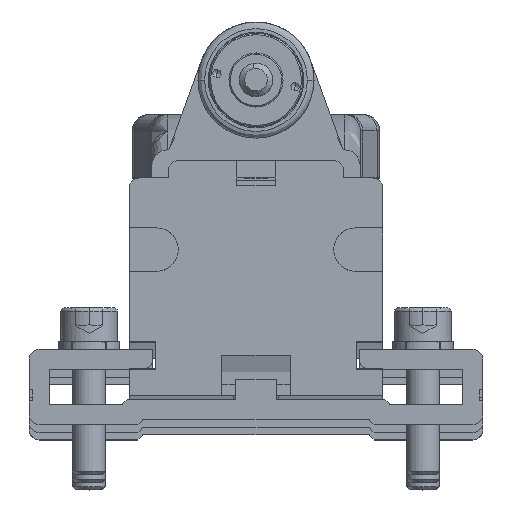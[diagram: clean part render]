
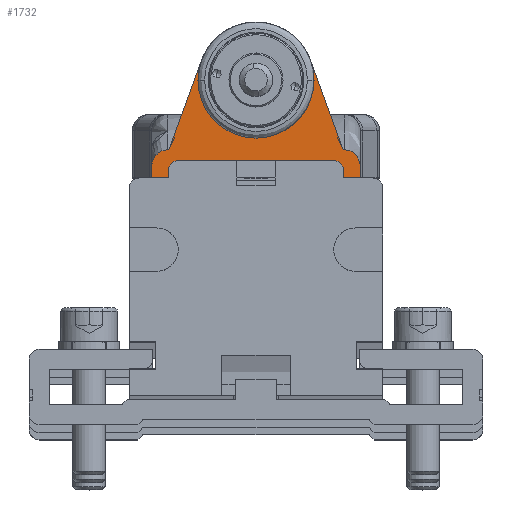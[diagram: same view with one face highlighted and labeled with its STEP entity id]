
A CAD part, top view. The second image highlights one B-rep face of the part: STEP entity #1732.
In plain terms, the highlighted planar face has unit normal (0, 0, 1).
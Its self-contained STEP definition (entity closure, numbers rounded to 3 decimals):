
#1732=ADVANCED_FACE('',(#3778),#3779,.T.);
#3778=FACE_OUTER_BOUND('',#6113,.T.);
#3779=PLANE('',#6114);
#6113=EDGE_LOOP('',(#13261,#13262,#13263,#13264,#13265,#13266,#13267,#13268,#13269,#13270,#13271,#13272,#13273,#13274,#13275,#13276,#13277,#13278,#13279,#13280,#13281,#13282));
#6114=AXIS2_PLACEMENT_3D('',#13283,#13284,#13285);
#13261=ORIENTED_EDGE('',*,*,#17844,.T.);
#13262=ORIENTED_EDGE('',*,*,#17845,.T.);
#13263=ORIENTED_EDGE('',*,*,#17846,.T.);
#13264=ORIENTED_EDGE('',*,*,#17847,.T.);
#13265=ORIENTED_EDGE('',*,*,#17848,.T.);
#13266=ORIENTED_EDGE('',*,*,#17849,.T.);
#13267=ORIENTED_EDGE('',*,*,#17850,.T.);
#13268=ORIENTED_EDGE('',*,*,#17851,.F.);
#13269=ORIENTED_EDGE('',*,*,#17852,.T.);
#13270=ORIENTED_EDGE('',*,*,#17853,.T.);
#13271=ORIENTED_EDGE('',*,*,#17854,.F.);
#13272=ORIENTED_EDGE('',*,*,#17855,.F.);
#13273=ORIENTED_EDGE('',*,*,#16094,.F.);
#13274=ORIENTED_EDGE('',*,*,#17856,.F.);
#13275=ORIENTED_EDGE('',*,*,#16107,.F.);
#13276=ORIENTED_EDGE('',*,*,#17857,.F.);
#13277=ORIENTED_EDGE('',*,*,#17858,.F.);
#13278=ORIENTED_EDGE('',*,*,#17859,.T.);
#13279=ORIENTED_EDGE('',*,*,#17860,.T.);
#13280=ORIENTED_EDGE('',*,*,#17861,.F.);
#13281=ORIENTED_EDGE('',*,*,#17862,.T.);
#13282=ORIENTED_EDGE('',*,*,#17863,.T.);
#13283=CARTESIAN_POINT('',(8.5,32.7,217.0));
#13284=DIRECTION('',(0.0,0.0,1.0));
#13285=DIRECTION('',(1.0,-0.0,0.0));
#16094=EDGE_CURVE('',#19135,#19138,#19139,.T.);
#16107=EDGE_CURVE('',#19162,#19164,#19165,.T.);
#17844=EDGE_CURVE('',#21761,#21762,#21763,.T.);
#17845=EDGE_CURVE('',#21762,#21764,#21765,.T.);
#17846=EDGE_CURVE('',#21764,#21766,#21767,.T.);
#17847=EDGE_CURVE('',#21766,#21768,#21769,.T.);
#17848=EDGE_CURVE('',#21768,#21770,#21771,.T.);
#17849=EDGE_CURVE('',#21770,#21772,#21773,.T.);
#17850=EDGE_CURVE('',#21772,#21774,#21775,.T.);
#17851=EDGE_CURVE('',#21776,#21774,#21777,.T.);
#17852=EDGE_CURVE('',#21776,#21778,#21779,.T.);
#17853=EDGE_CURVE('',#21778,#21780,#21781,.T.);
#17854=EDGE_CURVE('',#21782,#21780,#21783,.T.);
#17855=EDGE_CURVE('',#19138,#21782,#21784,.T.);
#17856=EDGE_CURVE('',#19164,#19135,#21785,.T.);
#17857=EDGE_CURVE('',#21786,#19162,#21787,.T.);
#17858=EDGE_CURVE('',#21788,#21786,#21789,.T.);
#17859=EDGE_CURVE('',#21788,#21790,#21791,.T.);
#17860=EDGE_CURVE('',#21790,#21792,#21793,.T.);
#17861=EDGE_CURVE('',#21794,#21792,#21795,.T.);
#17862=EDGE_CURVE('',#21794,#21796,#21797,.T.);
#17863=EDGE_CURVE('',#21796,#21761,#21798,.T.);
#19135=VERTEX_POINT('',#23644);
#19138=VERTEX_POINT('',#23648);
#19139=CIRCLE('',#23649,8.7);
#19162=VERTEX_POINT('',#23699);
#19164=VERTEX_POINT('',#23701);
#19165=CIRCLE('',#23702,8.7);
#21761=VERTEX_POINT('',#27156);
#21762=VERTEX_POINT('',#27157);
#21763=LINE('',#27158,#27159);
#21764=VERTEX_POINT('',#27160);
#21765=CIRCLE('',#27161,1.5);
#21766=VERTEX_POINT('',#27162);
#21767=LINE('',#27163,#27164);
#21768=VERTEX_POINT('',#27165);
#21769=CIRCLE('',#27166,1.5);
#21770=VERTEX_POINT('',#27167);
#21771=LINE('',#27168,#27169);
#21772=VERTEX_POINT('',#27170);
#21773=LINE('',#27171,#27172);
#21774=VERTEX_POINT('',#27173);
#21775=LINE('',#27174,#27175);
#21776=VERTEX_POINT('',#27176);
#21777=LINE('',#27177,#27178);
#21778=VERTEX_POINT('',#27179);
#21779=LINE('',#27180,#27181);
#21780=VERTEX_POINT('',#27182);
#21781=B_SPLINE_CURVE_WITH_KNOTS('',3,(#27183,#27184,#27185,#27186,#27187,#27188,#27189,#27190,#27191,#27192),.UNSPECIFIED.,.F.,.F.,(4,2,2,2,4),(1.12,1.22,1.315,1.406,1.492),.UNSPECIFIED.);
#21782=VERTEX_POINT('',#27193);
#21783=LINE('',#27194,#27195);
#21784=LINE('',#27196,#27197);
#21785=CIRCLE('',#27198,8.7);
#21786=VERTEX_POINT('',#27199);
#21787=LINE('',#27200,#27201);
#21788=VERTEX_POINT('',#27202);
#21789=LINE('',#27203,#27204);
#21790=VERTEX_POINT('',#27205);
#21791=B_SPLINE_CURVE_WITH_KNOTS('',3,(#27206,#27207,#27208,#27209,#27210,#27211,#27212,#27213,#27214,#27215),.UNSPECIFIED.,.F.,.F.,(4,2,2,2,4),(0.0,0.086,0.177,0.272,0.372),.UNSPECIFIED.);
#21792=VERTEX_POINT('',#27216);
#21793=LINE('',#27217,#27218);
#21794=VERTEX_POINT('',#27219);
#21795=LINE('',#27220,#27221);
#21796=VERTEX_POINT('',#27222);
#21797=LINE('',#27223,#27224);
#21798=LINE('',#27225,#27226);
#23644=CARTESIAN_POINT('',(27.7,47.3,217.0));
#23648=CARTESIAN_POINT('',(27.177,50.272,217.0));
#23649=AXIS2_PLACEMENT_3D('',#29897,#29898,#29899);
#23699=CARTESIAN_POINT('',(10.823,50.272,217.0));
#23701=CARTESIAN_POINT('',(10.3,47.3,217.0));
#23702=AXIS2_PLACEMENT_3D('',#29918,#29919,#29920);
#27156=CARTESIAN_POINT('',(5.85,32.7,217.0));
#27157=CARTESIAN_POINT('',(5.85,33.7,217.0));
#27158=CARTESIAN_POINT('',(5.85,32.7,217.0));
#27159=VECTOR('',#32102,1.0);
#27160=CARTESIAN_POINT('',(7.35,35.2,217.0));
#27161=AXIS2_PLACEMENT_3D('',#32103,#32104,#32105);
#27162=CARTESIAN_POINT('',(30.65,35.2,217.0));
#27163=CARTESIAN_POINT('',(7.35,35.2,217.0));
#27164=VECTOR('',#32106,23.3);
#27165=CARTESIAN_POINT('',(32.15,33.7,217.0));
#27166=AXIS2_PLACEMENT_3D('',#32107,#32108,#32109);
#27167=CARTESIAN_POINT('',(32.15,32.7,217.0));
#27168=CARTESIAN_POINT('',(32.15,33.7,217.0));
#27169=VECTOR('',#32110,1.0);
#27170=CARTESIAN_POINT('',(32.65,32.7,217.0));
#27171=CARTESIAN_POINT('',(32.15,32.7,217.0));
#27172=VECTOR('',#32111,0.5);
#27173=CARTESIAN_POINT('',(32.65,31.7,217.0));
#27174=CARTESIAN_POINT('',(32.65,32.7,217.0));
#27175=VECTOR('',#32112,1.0);
#27176=CARTESIAN_POINT('',(34.65,31.7,217.0));
#27177=CARTESIAN_POINT('',(34.65,31.7,217.0));
#27178=VECTOR('',#32113,2.0);
#27179=CARTESIAN_POINT('',(34.65,34.236,217.0));
#27180=CARTESIAN_POINT('',(34.65,31.7,217.0));
#27181=VECTOR('',#32114,2.536);
#27182=CARTESIAN_POINT('',(32.25,36.86,217.0));
#27183=CARTESIAN_POINT('',(34.65,34.236,217.0));
#27184=CARTESIAN_POINT('',(34.65,34.57,217.0));
#27185=CARTESIAN_POINT('',(34.577,34.965,217.0));
#27186=CARTESIAN_POINT('',(34.338,35.572,217.0));
#27187=CARTESIAN_POINT('',(34.136,35.895,217.0));
#27188=CARTESIAN_POINT('',(33.71,36.344,217.0));
#27189=CARTESIAN_POINT('',(33.416,36.554,217.0));
#27190=CARTESIAN_POINT('',(32.876,36.789,217.0));
#27191=CARTESIAN_POINT('',(32.538,36.86,217.0));
#27192=CARTESIAN_POINT('',(32.25,36.86,217.0));
#27193=CARTESIAN_POINT('',(32.052,36.86,217.0));
#27194=CARTESIAN_POINT('',(32.052,36.86,217.0));
#27195=VECTOR('',#32115,0.198);
#27196=CARTESIAN_POINT('',(27.177,50.272,217.0));
#27197=VECTOR('',#32116,14.271);
#27198=AXIS2_PLACEMENT_3D('',#32117,#32118,#32119);
#27199=CARTESIAN_POINT('',(5.948,36.86,217.0));
#27200=CARTESIAN_POINT('',(5.948,36.86,217.0));
#27201=VECTOR('',#32120,14.27);
#27202=CARTESIAN_POINT('',(5.75,36.86,217.0));
#27203=CARTESIAN_POINT('',(5.75,36.86,217.0));
#27204=VECTOR('',#32121,0.198);
#27205=CARTESIAN_POINT('',(3.35,34.236,217.0));
#27206=CARTESIAN_POINT('',(5.75,36.86,217.0));
#27207=CARTESIAN_POINT('',(5.462,36.86,217.0));
#27208=CARTESIAN_POINT('',(5.124,36.789,217.0));
#27209=CARTESIAN_POINT('',(4.584,36.554,217.0));
#27210=CARTESIAN_POINT('',(4.29,36.344,217.0));
#27211=CARTESIAN_POINT('',(3.864,35.895,217.0));
#27212=CARTESIAN_POINT('',(3.662,35.572,217.0));
#27213=CARTESIAN_POINT('',(3.423,34.965,217.0));
#27214=CARTESIAN_POINT('',(3.35,34.57,217.0));
#27215=CARTESIAN_POINT('',(3.35,34.236,217.0));
#27216=CARTESIAN_POINT('',(3.35,31.7,217.0));
#27217=CARTESIAN_POINT('',(3.35,34.236,217.0));
#27218=VECTOR('',#32122,2.536);
#27219=CARTESIAN_POINT('',(5.35,31.7,217.0));
#27220=CARTESIAN_POINT('',(5.35,31.7,217.0));
#27221=VECTOR('',#32123,2.0);
#27222=CARTESIAN_POINT('',(5.35,32.7,217.0));
#27223=CARTESIAN_POINT('',(5.35,31.7,217.0));
#27224=VECTOR('',#32124,1.0);
#27225=CARTESIAN_POINT('',(5.35,32.7,217.0));
#27226=VECTOR('',#32125,0.5);
#29897=CARTESIAN_POINT('',(19.,47.3,217.0));
#29898=DIRECTION('',(0.,0.,1.0));
#29899=DIRECTION('',(0.94,0.342,0.));
#29918=CARTESIAN_POINT('',(19.,47.3,217.0));
#29919=DIRECTION('',(0.,0.,1.0));
#29920=DIRECTION('',(0.94,0.342,0.));
#32102=DIRECTION('',(0.0,1.0,0.0));
#32103=CARTESIAN_POINT('',(7.35,33.7,217.0));
#32104=DIRECTION('',(0.0,0.0,-1.0));
#32105=DIRECTION('',(-1.0,0.0,0.0));
#32106=DIRECTION('',(1.0,0.0,0.0));
#32107=CARTESIAN_POINT('',(30.65,33.7,217.0));
#32108=DIRECTION('',(0.0,0.0,-1.0));
#32109=DIRECTION('',(1.0,0.0,0.0));
#32110=DIRECTION('',(0.0,-1.0,0.0));
#32111=DIRECTION('',(1.0,0.0,0.0));
#32112=DIRECTION('',(0.0,-1.0,0.0));
#32113=DIRECTION('',(-1.0,0.0,0.0));
#32114=DIRECTION('',(0.0,1.0,0.0));
#32115=DIRECTION('',(1.0,0.0,0.0));
#32116=DIRECTION('',(0.342,-0.94,0.));
#32117=CARTESIAN_POINT('',(19.,47.3,217.0));
#32118=DIRECTION('',(0.,0.,1.0));
#32119=DIRECTION('',(0.94,0.342,0.));
#32120=DIRECTION('',(0.342,0.94,0.0));
#32121=DIRECTION('',(1.0,0.0,0.0));
#32122=DIRECTION('',(0.0,-1.0,0.0));
#32123=DIRECTION('',(-1.0,0.0,0.0));
#32124=DIRECTION('',(0.0,1.0,0.0));
#32125=DIRECTION('',(1.0,0.0,0.0));
